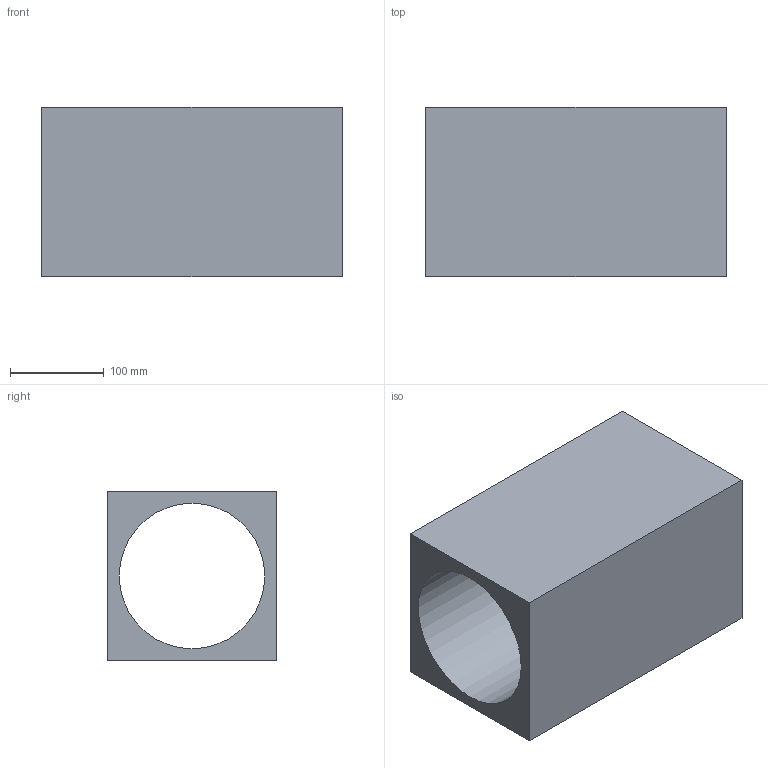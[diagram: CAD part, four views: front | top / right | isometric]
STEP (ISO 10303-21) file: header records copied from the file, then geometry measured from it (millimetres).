
FILE_DESCRIPTION(/* description */ ('STEP AP214'),/* implementation_level */ '2;1');
FILE_NAME(/* name */ '61b88bee02ec8a67e20933fe',/* time_stamp */ '2021-12-14T12:19:59+00:00',/* author */ (''),/* organization */ (''),/* preprocessor_version */ 'ST-DEVELOPER v18.1',/* originating_system */ ' ',/* authorisation */ ' ');
FILE_SCHEMA (('AUTOMOTIVE_DESIGN {1 0 10303 214 3 1 1}'));
Length unit declared in the file: metre
Products named in the file (1): Part 2
Bounding box: 320 x 180 x 180 mm (x, y, z)
Volume: 4329858.9 mm3; surface area: 413284.6 mm2
Topology: 1 solids, 1 shells, 7 faces, 15 edges, 10 vertices
Faces by surface type: plane 6, cylinder 1
Full cylindrical faces by diameter (mm): 155 x1
Entity records: 220 total; most frequent: DIRECTION 32, CARTESIAN_POINT 32, ORIENTED_EDGE 28, EDGE_CURVE 14, LINE 12, VECTOR 12, VERTEX_POINT 10, EDGE_LOOP 10
